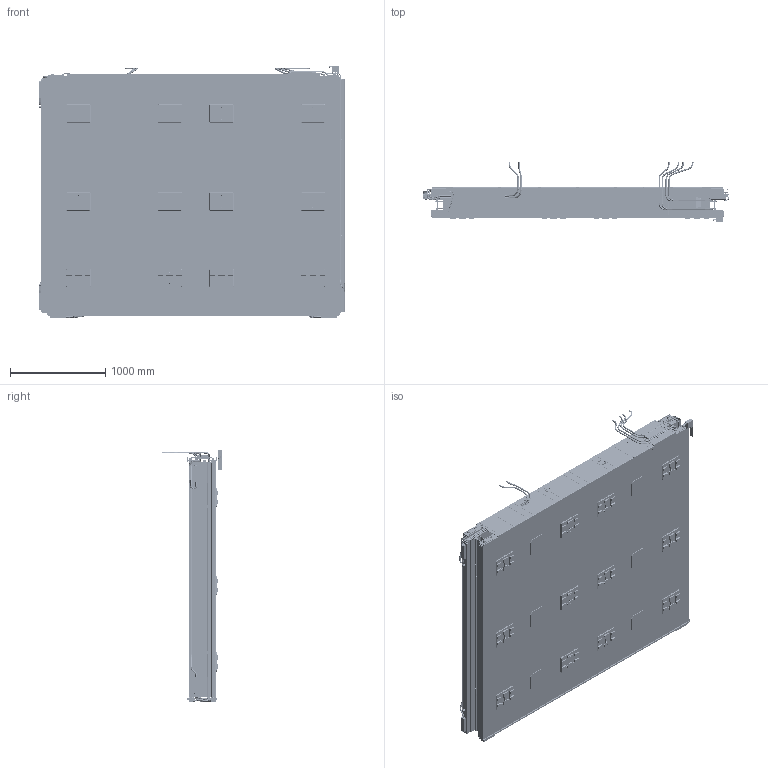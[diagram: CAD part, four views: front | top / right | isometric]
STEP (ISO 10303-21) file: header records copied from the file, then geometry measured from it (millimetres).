
FILE_DESCRIPTION(/* description */ (''),/* implementation_level */ '2;1');
FILE_NAME(/* name */ '030930_mb3_2_3_4_th_phi_R_carters.stp',/* time_stamp */ '2022-04-14T14:22:01+02:00',/* author */ (''),/* organization */ (''),/* preprocessor_version */ 'ST-DEVELOPER v18.1',/* originating_system */ 'SIEMENS PLM Software NX 1992',/* authorisation */ '');
FILE_SCHEMA (('AUTOMOTIVE_DESIGN { 1 0 10303 214 3 1 1 1 }'));
Products named in the file (1): zago349C2021bq05
Bounding box: 3215.52 x 621.44 x 2646.11 mm (x, y, z)
Volume: 1040306434.2 mm3; surface area: 258777312.9 mm2
Topology: 253 solids, 253 shells, 14312 faces, 37610 edges, 23706 vertices
Faces by surface type: plane 8714, cylinder 4442, cone 856, bspline 165, torus 92, sphere 43
Full cylindrical faces by diameter (mm): 1 x251, 1.675 x12, 2.459 x3, 2.594 x54, 3 x78, 3.2 x12, 3.25 x2, 3.3 x36, 3.432 x527, 3.5 x53, 3.778 x7, 4 x39, 4.5 x1, 5 x70, 5.188 x56, 5.5 x282, 6 x30, 6.4 x28, 6.5 x1, 7 x3, 7.5 x72, 8 x56, 8.6 x6, 8.782 x28, 8.8 x10, 8.933 x24, 8.985 x24, 9 x2, 9.391 x16, 9.5 x2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
Entity records: 458305 total; most frequent: CARTESIAN_POINT 120525, ORIENTED_EDGE 66260, DIRECTION 62972, EDGE_CURVE 33130, AXIS2_PLACEMENT_3D 22847, VERTEX_POINT 22386, EDGE_LOOP 19866, LINE 17278
